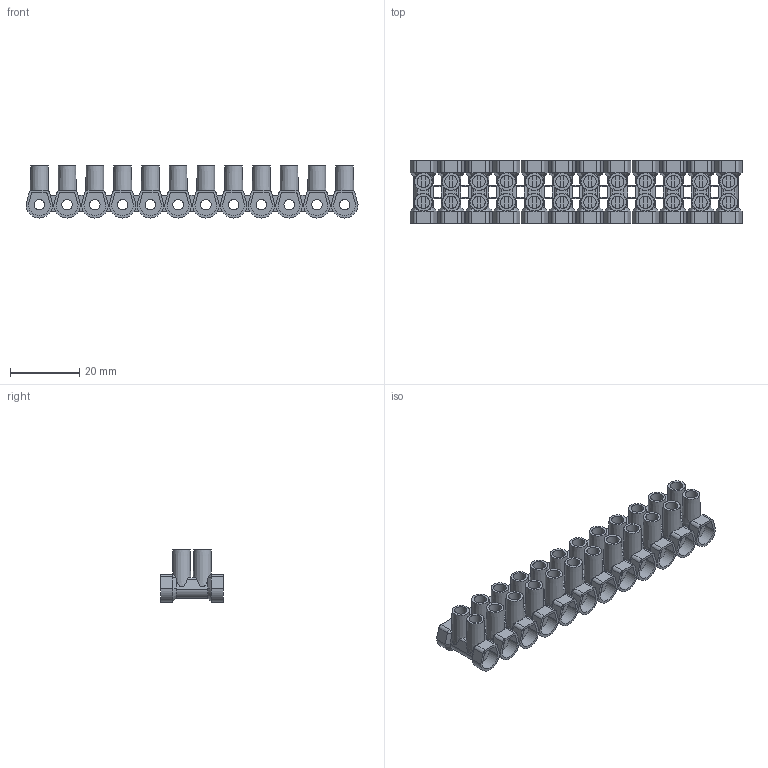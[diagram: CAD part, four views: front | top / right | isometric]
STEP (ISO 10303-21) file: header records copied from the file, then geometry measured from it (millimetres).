
FILE_DESCRIPTION(/* description */ ('Unknown'),/* implementation_level */ '2;1');
FILE_NAME(/* name */ 'MT 104 N',/* time_stamp */ '2021-10-08T10:21:50+02:00',/* author */ ('Unknown'),/* organization */ ('Unknown'),/* preprocessor_version */ 'ST-DEVELOPER v16.7',/* originating_system */ 'Solid Edge',/* authorisation */ 'Unknown');
FILE_SCHEMA (('AUTOMOTIVE_DESIGN {1 0 10303 214 3 1 1}'));
Length unit declared in the file: millimetre
Products named in the file (1): MT 104 N
Bounding box: 95.7 x 18 x 15 mm (x, y, z)
Volume: 7537.5 mm3; surface area: 14016 mm2
Topology: 1 solids, 1 shells, 912 faces, 2406 edges, 1544 vertices
Faces by surface type: plane 600, cylinder 216, cone 96
Full cylindrical faces by diameter (mm): 3 x12, 3.6 x24
Entity records: 27652 total; most frequent: CARTESIAN_POINT 5295, DIRECTION 4728, ORIENTED_EDGE 4572, EDGE_CURVE 2286, AXIS2_PLACEMENT_3D 1717, VERTEX_POINT 1484, LINE 1294, VECTOR 1294
